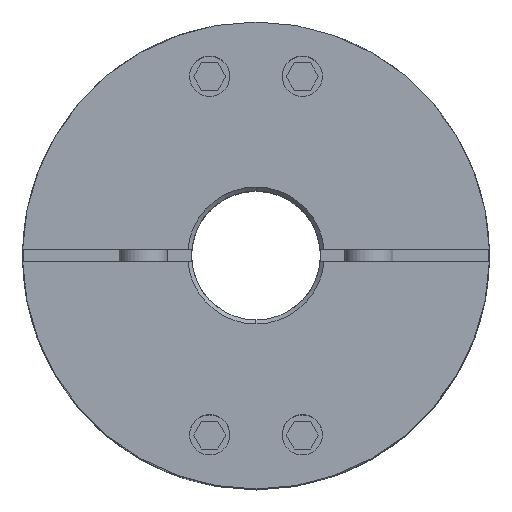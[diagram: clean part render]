
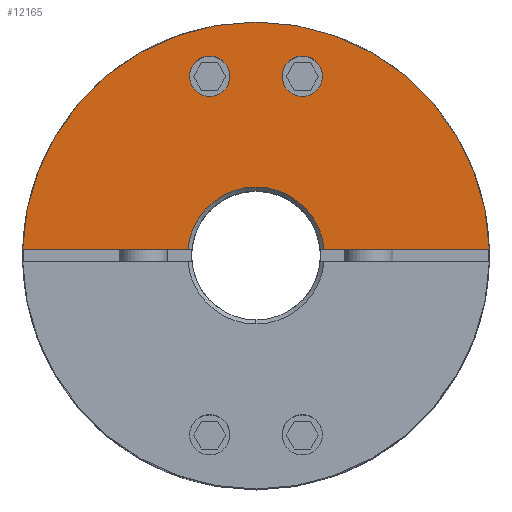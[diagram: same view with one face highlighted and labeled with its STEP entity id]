
A CAD part, top view. The second image highlights one B-rep face of the part: STEP entity #12165.
In plain terms, the highlighted planar face has unit normal (0, 0, 1).
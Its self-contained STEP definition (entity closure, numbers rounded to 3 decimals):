
#4729=CARTESIAN_POINT('',(5.759,24.767,35.75));
#4730=VERTEX_POINT('',#4729);
#4739=CARTESIAN_POINT('',(5.759,19.767,35.75));
#4740=VERTEX_POINT('',#4739);
#4741=CARTESIAN_POINT('',(5.759,22.267,35.75));
#4742=DIRECTION('',(0.0,0.0,-1.0));
#4743=DIRECTION('',(0.0,1.0,0.0));
#4744=AXIS2_PLACEMENT_3D('',#4741,#4742,#4743);
#4745=CIRCLE('',#4744,2.5);
#4746=EDGE_CURVE('',#4740,#4730,#4745,.T.);
#4771=CARTESIAN_POINT('',(-5.759,24.767,35.75));
#4772=VERTEX_POINT('',#4771);
#4781=CARTESIAN_POINT('',(-5.759,19.767,35.75));
#4782=VERTEX_POINT('',#4781);
#4783=CARTESIAN_POINT('',(-5.759,22.267,35.75));
#4784=DIRECTION('',(0.0,0.0,-1.0));
#4785=DIRECTION('',(0.0,1.0,0.0));
#4786=AXIS2_PLACEMENT_3D('',#4783,#4784,#4785);
#4787=CIRCLE('',#4786,2.5);
#4788=EDGE_CURVE('',#4782,#4772,#4787,.T.);
#5025=CARTESIAN_POINT('',(0.,29.0,35.75));
#5026=VERTEX_POINT('',#5025);
#5174=CARTESIAN_POINT('',(-28.99,0.75,35.75));
#5175=VERTEX_POINT('',#5174);
#5182=CARTESIAN_POINT('',(0.,0.0,35.75));
#5183=DIRECTION('',(0.0,0.0,-1.0));
#5184=DIRECTION('',(0.0,1.0,0.0));
#5185=AXIS2_PLACEMENT_3D('',#5182,#5183,#5184);
#5186=CIRCLE('',#5185,29.0);
#5187=EDGE_CURVE('',#5175,#5026,#5186,.T.);
#5359=CARTESIAN_POINT('',(0.,8.5,35.75));
#5360=VERTEX_POINT('',#5359);
#5376=CARTESIAN_POINT('',(8.467,0.75,35.75));
#5377=VERTEX_POINT('',#5376);
#5391=CARTESIAN_POINT('',(0.,0.0,35.75));
#5392=DIRECTION('',(0.0,0.0,1.0));
#5393=DIRECTION('',(0.0,1.0,0.0));
#5394=AXIS2_PLACEMENT_3D('',#5391,#5392,#5393);
#5395=CIRCLE('',#5394,8.5);
#5396=EDGE_CURVE('',#5377,#5360,#5395,.T.);
#11671=CARTESIAN_POINT('',(-8.467,0.75,35.75));
#11672=VERTEX_POINT('',#11671);
#11673=CARTESIAN_POINT('',(0.,0.0,35.75));
#11674=DIRECTION('',(0.0,0.0,1.0));
#11675=DIRECTION('',(0.0,1.0,0.0));
#11676=AXIS2_PLACEMENT_3D('',#11673,#11674,#11675);
#11677=CIRCLE('',#11676,8.5);
#11678=EDGE_CURVE('',#5360,#11672,#11677,.T.);
#11703=CARTESIAN_POINT('',(-28.99,0.75,35.75));
#11704=DIRECTION('',(1.0,0.0,0.0));
#11705=VECTOR('',#11704,20.523);
#11706=LINE('',#11703,#11705);
#11707=EDGE_CURVE('',#5175,#11672,#11706,.T.);
#11739=CARTESIAN_POINT('',(28.99,0.75,35.75));
#11740=VERTEX_POINT('',#11739);
#11747=CARTESIAN_POINT('',(8.467,0.75,35.75));
#11748=DIRECTION('',(1.0,0.0,0.0));
#11749=VECTOR('',#11748,20.523);
#11750=LINE('',#11747,#11749);
#11751=EDGE_CURVE('',#5377,#11740,#11750,.T.);
#11866=CARTESIAN_POINT('',(0.,0.0,35.75));
#11867=DIRECTION('',(0.0,0.0,-1.0));
#11868=DIRECTION('',(0.0,1.0,0.0));
#11869=AXIS2_PLACEMENT_3D('',#11866,#11867,#11868);
#11870=CIRCLE('',#11869,29.0);
#11871=EDGE_CURVE('',#5026,#11740,#11870,.T.);
#12104=CARTESIAN_POINT('',(-5.759,22.267,35.75));
#12105=DIRECTION('',(0.0,0.0,-1.0));
#12106=DIRECTION('',(0.0,1.0,0.0));
#12107=AXIS2_PLACEMENT_3D('',#12104,#12105,#12106);
#12108=CIRCLE('',#12107,2.5);
#12109=EDGE_CURVE('',#4772,#4782,#12108,.T.);
#12122=CARTESIAN_POINT('',(5.759,22.267,35.75));
#12123=DIRECTION('',(0.0,0.0,-1.0));
#12124=DIRECTION('',(0.0,1.0,0.0));
#12125=AXIS2_PLACEMENT_3D('',#12122,#12123,#12124);
#12126=CIRCLE('',#12125,2.5);
#12127=EDGE_CURVE('',#4730,#4740,#12126,.T.);
#12144=CARTESIAN_POINT('',(0.,2.636,35.75));
#12145=DIRECTION('',(0.0,0.0,1.0));
#12146=DIRECTION('',(0.0,1.0,0.0));
#12147=AXIS2_PLACEMENT_3D('',#12144,#12145,#12146);
#12148=PLANE('',#12147);
#12149=ORIENTED_EDGE('',*,*,#5396,.F.);
#12150=ORIENTED_EDGE('',*,*,#11751,.T.);
#12151=ORIENTED_EDGE('',*,*,#11871,.F.);
#12152=ORIENTED_EDGE('',*,*,#5187,.F.);
#12153=ORIENTED_EDGE('',*,*,#11707,.T.);
#12154=ORIENTED_EDGE('',*,*,#11678,.F.);
#12155=EDGE_LOOP('',(#12149,#12150,#12151,#12152,#12153,#12154));
#12156=FACE_OUTER_BOUND('',#12155,.T.);
#12157=ORIENTED_EDGE('',*,*,#12109,.T.);
#12158=ORIENTED_EDGE('',*,*,#4788,.T.);
#12159=EDGE_LOOP('',(#12157,#12158));
#12160=FACE_BOUND('',#12159,.T.);
#12161=ORIENTED_EDGE('',*,*,#12127,.T.);
#12162=ORIENTED_EDGE('',*,*,#4746,.T.);
#12163=EDGE_LOOP('',(#12161,#12162));
#12164=FACE_BOUND('',#12163,.T.);
#12165=ADVANCED_FACE('',(#12156,#12160,#12164),#12148,.T.);
